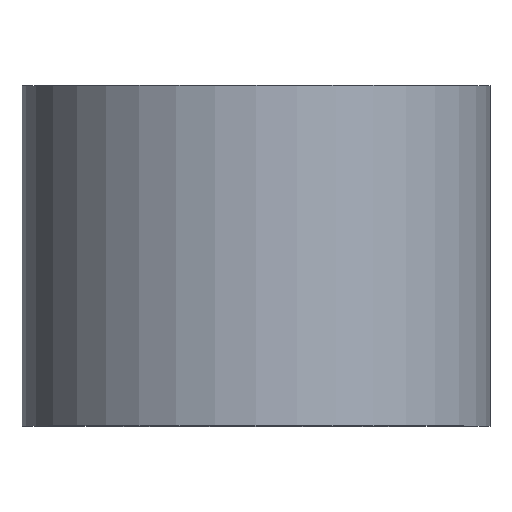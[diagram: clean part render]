
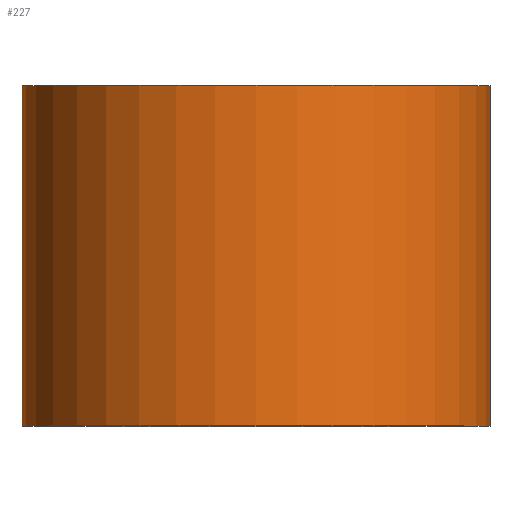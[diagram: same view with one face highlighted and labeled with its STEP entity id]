
A CAD part, top view. The second image highlights one B-rep face of the part: STEP entity #227.
In plain terms, the highlighted cylindrical face has radius 11 mm (diameter 22 mm), a partial arc.
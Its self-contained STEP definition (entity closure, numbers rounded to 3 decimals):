
#5 = ORIENTED_EDGE ( 'NONE', *, *, #57, .F. ) ;
#16 = CARTESIAN_POINT ( 'NONE',  ( -11., 16., 0. ) ) ;
#18 = EDGE_LOOP ( 'NONE', ( #103, #80, #5, #224 ) ) ;
#34 = VERTEX_POINT ( 'NONE', #16 ) ;
#42 = EDGE_CURVE ( 'NONE', #295, #130, #127, .T. ) ;
#44 = CARTESIAN_POINT ( 'NONE',  ( 11., 0., 0. ) ) ;
#49 = CYLINDRICAL_SURFACE ( 'NONE', #178, 11. ) ;
#57 = EDGE_CURVE ( 'NONE', #34, #180, #149, .T. ) ;
#60 = AXIS2_PLACEMENT_3D ( 'NONE', #137, #277, #187 ) ;
#68 = CARTESIAN_POINT ( 'NONE',  ( 11., 16., 0. ) ) ;
#70 = CARTESIAN_POINT ( 'NONE',  ( 0., 0., 0. ) ) ;
#73 = FACE_OUTER_BOUND ( 'NONE', #18, .T. ) ;
#80 = ORIENTED_EDGE ( 'NONE', *, *, #120, .T. ) ;
#103 = ORIENTED_EDGE ( 'NONE', *, *, #42, .T. ) ;
#113 = LINE ( 'NONE', #299, #135 ) ;
#116 = CARTESIAN_POINT ( 'NONE',  ( 0., 0., 0. ) ) ;
#118 = DIRECTION ( 'NONE',  ( 0., 1., 0. ) ) ;
#120 = EDGE_CURVE ( 'NONE', #130, #180, #251, .T. ) ;
#127 = CIRCLE ( 'NONE', #208, 11. ) ;
#130 = VERTEX_POINT ( 'NONE', #44 ) ;
#135 = VECTOR ( 'NONE', #263, 1000. ) ;
#137 = CARTESIAN_POINT ( 'NONE',  ( 0., 16., 0. ) ) ;
#139 = DIRECTION ( 'NONE',  ( -1., 0., 0. ) ) ;
#142 = DIRECTION ( 'NONE',  ( 0., 1., 0. ) ) ;
#146 = CARTESIAN_POINT ( 'NONE',  ( -11., 0., 0. ) ) ;
#149 = CIRCLE ( 'NONE', #60, 11. ) ;
#165 = DIRECTION ( 'NONE',  ( 0., 1., 0. ) ) ;
#178 = AXIS2_PLACEMENT_3D ( 'NONE', #70, #142, #139 ) ;
#180 = VERTEX_POINT ( 'NONE', #68 ) ;
#187 = DIRECTION ( 'NONE',  ( -1., 0., 0. ) ) ;
#208 = AXIS2_PLACEMENT_3D ( 'NONE', #116, #165, #215 ) ;
#215 = DIRECTION ( 'NONE',  ( -1., 0., 0. ) ) ;
#223 = EDGE_CURVE ( 'NONE', #295, #34, #113, .T. ) ;
#224 = ORIENTED_EDGE ( 'NONE', *, *, #223, .F. ) ;
#227 = ADVANCED_FACE ( 'NONE', ( #73 ), #49, .T. ) ;
#238 = CARTESIAN_POINT ( 'NONE',  ( 11., 0., 0. ) ) ;
#251 = LINE ( 'NONE', #238, #284 ) ;
#263 = DIRECTION ( 'NONE',  ( 0., 1., 0. ) ) ;
#277 = DIRECTION ( 'NONE',  ( 0., 1., 0. ) ) ;
#284 = VECTOR ( 'NONE', #118, 1000. ) ;
#295 = VERTEX_POINT ( 'NONE', #146 ) ;
#299 = CARTESIAN_POINT ( 'NONE',  ( -11., 0., 0. ) ) ;
